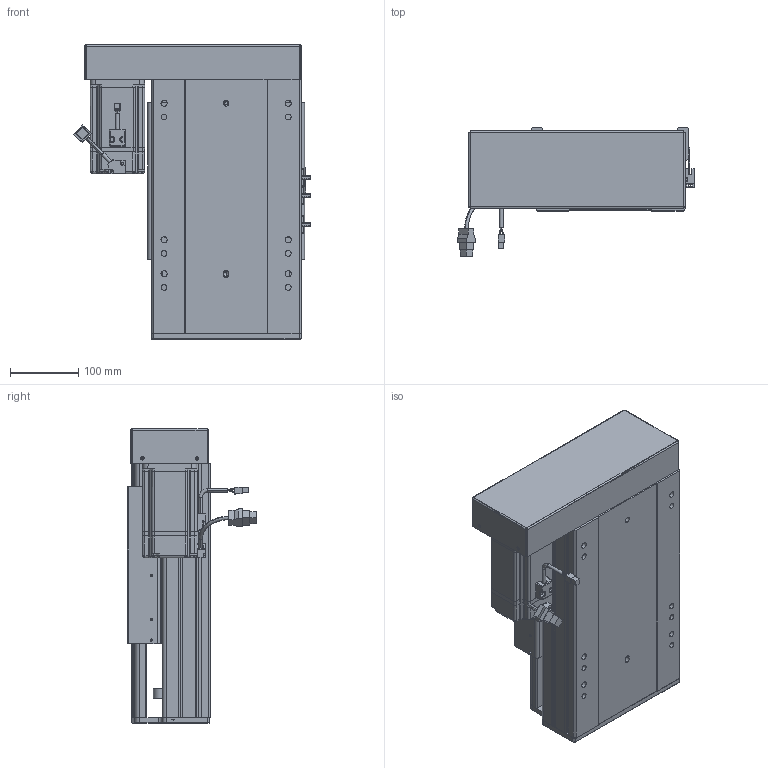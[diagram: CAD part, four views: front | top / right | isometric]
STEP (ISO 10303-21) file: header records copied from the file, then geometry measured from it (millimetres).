
FILE_DESCRIPTION (( 'STEP AP203' ), '1' );
FILE_NAME ('RY220-L2525-300-LK.SLDASM_50.step', '2022-07-04T01:46:09', ( '' ), ( '' ), 'SwSTEP 2.0', 'SolidWorks 2016', '' );
FILE_SCHEMA (( 'CONFIG_CONTROL_DESIGN' ));
Length unit declared in the file: millimetre
Products named in the file (12): RY220蛌殏菁釱-300_50; RY220-L2525-300-LK.SLDASM_50; RY220左右折电机安装板; RY220-俋离672覜茼んえ; RY220半封闭25-32螺母铝滑块; RY220酘衵殏萇儂欶; 怢湛750W_ECMA-CX0807ES; 滅袉蝶18-10; 覜茼ん672; 滅袉蝶18-15; RY220-300-蛌殏奻裔啣_50; RY220綴裔啣
Assembly tree (15 placements, depth 2):
  RY220-L2525-300-LK.SLDASM_50
    RY220蛌殏菁釱-300_50
    RY220-300-蛌殏奻裔啣_50
    怢湛750W_ECMA-CX0807ES
    滅袉蝶18-10  x2
    RY220-俋离672覜茼んえ
    覜茼ん672  x3
    RY220綴裔啣
    RY220半封闭25-32螺母铝滑块
    滅袉蝶18-15  x2
    RY220左右折电机安装板
    RY220酘衵殏萇儂欶
Bounding box: 347.44 x 189.27 x 432 mm (x, y, z)
Volume: 5410112.8 mm3; surface area: 1373632.9 mm2
Topology: 16 solids, 16 shells, 1955 faces, 5388 edges, 3447 vertices
Faces by surface type: plane 896, cylinder 839, cone 150, bspline 44, sphere 16, torus 10
Entity records: 64525 total; most frequent: CARTESIAN_POINT 19009, ORIENTED_EDGE 9504, DIRECTION 8748, EDGE_CURVE 4752, VERTEX_POINT 3103, AXIS2_PLACEMENT_3D 3013, LINE 2722, VECTOR 2722
